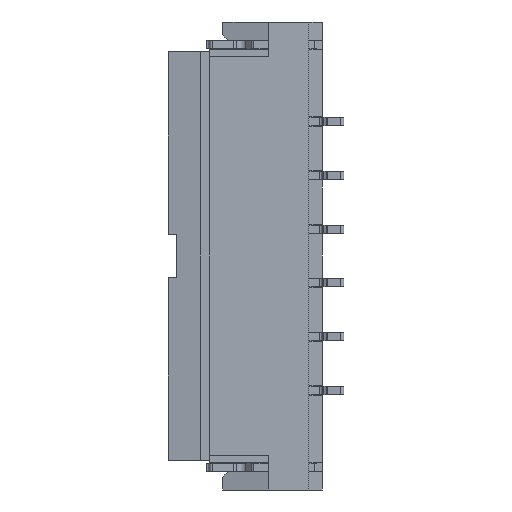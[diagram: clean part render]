
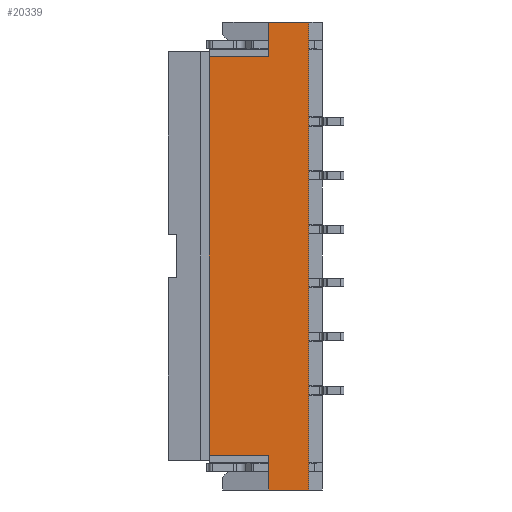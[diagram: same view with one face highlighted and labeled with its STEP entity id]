
A CAD part, front view. The second image highlights one B-rep face of the part: STEP entity #20339.
In plain terms, the highlighted planar face has unit normal (0, -1, 0).
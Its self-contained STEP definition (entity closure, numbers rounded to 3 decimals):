
#491=DIRECTION('',(0.,0.,1.));
#492=VECTOR('',#491,0.65);
#493=CARTESIAN_POINT('',(1.1,0.,-1.65));
#494=LINE('',#493,#492);
#6967=DIRECTION('',(-1.,0.,0.));
#6968=VECTOR('',#6967,1.1);
#6969=CARTESIAN_POINT('',(1.1,0.,-1.65));
#6970=LINE('',#6969,#6968);
#6975=DIRECTION('',(0.,0.,1.));
#6976=VECTOR('',#6975,8.7);
#6977=CARTESIAN_POINT('',(1.85,0.,-9.7));
#6978=LINE('',#6977,#6976);
#6979=DIRECTION('',(1.,0.,0.));
#6980=VECTOR('',#6979,0.75);
#6981=CARTESIAN_POINT('',(1.1,0.,-9.7));
#6982=LINE('',#6981,#6980);
#6983=DIRECTION('',(0.,0.,-1.));
#6984=VECTOR('',#6983,0.65);
#6985=CARTESIAN_POINT('',(1.1,0.,-9.05));
#6986=LINE('',#6985,#6984);
#6987=DIRECTION('',(1.,0.,0.));
#6988=VECTOR('',#6987,1.1);
#6989=CARTESIAN_POINT('',(0.,0.,-9.05));
#6990=LINE('',#6989,#6988);
#6991=DIRECTION('',(0.,0.,-1.));
#6992=VECTOR('',#6991,7.4);
#6993=CARTESIAN_POINT('',(0.,0.,-1.65));
#6994=LINE('',#6993,#6992);
#7019=DIRECTION('',(1.,0.,0.));
#7020=VECTOR('',#7019,0.75);
#7021=CARTESIAN_POINT('',(1.1,0.,-1.));
#7022=LINE('',#7021,#7020);
#10427=CARTESIAN_POINT('',(1.85,0.,-9.7));
#10428=VERTEX_POINT('',#10427);
#10429=CARTESIAN_POINT('',(1.1,0.,-9.7));
#10430=VERTEX_POINT('',#10429);
#10757=CARTESIAN_POINT('',(0.,0.,-1.65));
#10758=VERTEX_POINT('',#10757);
#10759=CARTESIAN_POINT('',(0.,0.,-9.05));
#10760=VERTEX_POINT('',#10759);
#10781=CARTESIAN_POINT('',(1.85,0.,-1.));
#10782=VERTEX_POINT('',#10781);
#10843=CARTESIAN_POINT('',(1.1,0.,-9.05));
#10844=VERTEX_POINT('',#10843);
#10847=CARTESIAN_POINT('',(1.1,0.,-1.65));
#10848=VERTEX_POINT('',#10847);
#10849=CARTESIAN_POINT('',(1.1,0.,-1.));
#10850=VERTEX_POINT('',#10849);
#20321=CARTESIAN_POINT('',(0.925,0.,-5.35));
#20322=DIRECTION('',(0.,1.,0.));
#20323=DIRECTION('',(1.,0.,0.));
#20324=AXIS2_PLACEMENT_3D('',#20321,#20322,#20323);
#20325=PLANE('',#20324);
#20326=ORIENTED_EDGE('',*,*,#20314,.F.);
#20327=ORIENTED_EDGE('',*,*,#12705,.T.);
#20329=ORIENTED_EDGE('',*,*,#20328,.T.);
#20330=ORIENTED_EDGE('',*,*,#17997,.F.);
#20331=ORIENTED_EDGE('',*,*,#12040,.F.);
#20333=ORIENTED_EDGE('',*,*,#20332,.F.);
#20335=ORIENTED_EDGE('',*,*,#20334,.F.);
#20336=ORIENTED_EDGE('',*,*,#18762,.F.);
#20337=EDGE_LOOP('',(#20326,#20327,#20329,#20330,#20331,#20333,#20335,#20336));
#20338=FACE_OUTER_BOUND('',#20337,.F.);
#12040=EDGE_CURVE('',#10430,#10428,#6982,.T.);
#12705=EDGE_CURVE('',#10848,#10850,#494,.T.);
#17997=EDGE_CURVE('',#10428,#10782,#6978,.T.);
#18762=EDGE_CURVE('',#10758,#10760,#6994,.T.);
#20314=EDGE_CURVE('',#10848,#10758,#6970,.T.);
#20328=EDGE_CURVE('',#10850,#10782,#7022,.T.);
#20332=EDGE_CURVE('',#10844,#10430,#6986,.T.);
#20334=EDGE_CURVE('',#10760,#10844,#6990,.T.);
#20339=ADVANCED_FACE('',(#20338),#20325,.F.);
